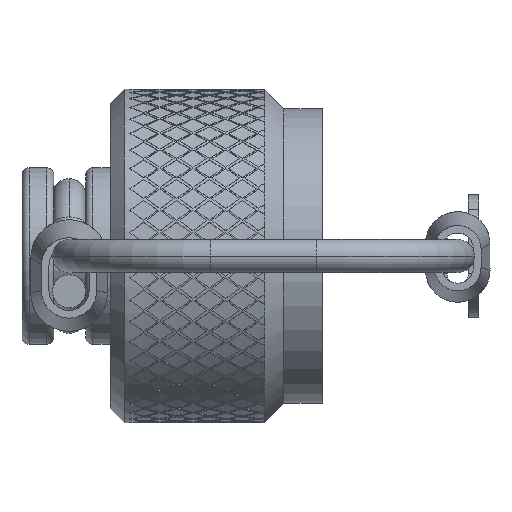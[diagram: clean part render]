
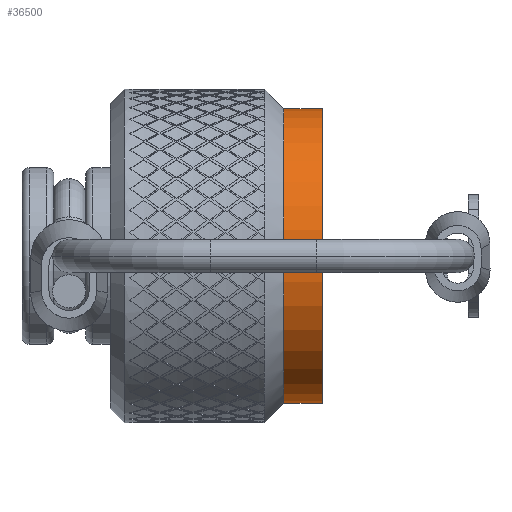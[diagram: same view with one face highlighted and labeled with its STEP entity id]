
A CAD part, front view. The second image highlights one B-rep face of the part: STEP entity #36500.
In plain terms, the highlighted cylindrical face has radius 10.592 mm (diameter 21.184 mm), a partial arc.
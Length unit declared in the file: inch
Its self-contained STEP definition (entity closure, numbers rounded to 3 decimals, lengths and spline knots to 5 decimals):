
#5377 = CARTESIAN_POINT ( 'NONE',  ( 0.7405, 0., -0.417 ) ) ;
#6701 = VERTEX_POINT ( 'NONE', #43143 ) ;
#8765 = VECTOR ( 'NONE', #32435, 39.37008 ) ;
#9992 = CARTESIAN_POINT ( 'NONE',  ( 0.7405, 0., 0. ) ) ;
#12717 = LINE ( 'NONE', #62083, #8765 ) ;
#14408 = EDGE_CURVE ( 'NONE', #26275, #56679, #12717, .T. ) ;
#18387 = EDGE_CURVE ( 'NONE', #6701, #18921, #25304, .T. ) ;
#18587 = EDGE_LOOP ( 'NONE', ( #45790, #18986, #49780, #60704 ) ) ;
#18921 = VERTEX_POINT ( 'NONE', #30626 ) ;
#18986 = ORIENTED_EDGE ( 'NONE', *, *, #45142, .T. ) ;
#19926 = DIRECTION ( 'NONE',  ( 1., 0., 0. ) ) ;
#20306 = DIRECTION ( 'NONE',  ( 0., 0., -1. ) ) ;
#23801 = VECTOR ( 'NONE', #40801, 39.37008 ) ;
#25304 = LINE ( 'NONE', #55619, #23801 ) ;
#26275 = VERTEX_POINT ( 'NONE', #5377 ) ;
#27040 = CARTESIAN_POINT ( 'NONE',  ( 0.85, 0., -0.417 ) ) ;
#29406 = AXIS2_PLACEMENT_3D ( 'NONE', #34146, #33211, #33826 ) ;
#30626 = CARTESIAN_POINT ( 'NONE',  ( 0.85, 0., 0.417 ) ) ;
#32435 = DIRECTION ( 'NONE',  ( 1., 0., 0. ) ) ;
#33211 = DIRECTION ( 'NONE',  ( 1., 0., 0. ) ) ;
#33826 = DIRECTION ( 'NONE',  ( 0., 0., -1. ) ) ;
#34146 = CARTESIAN_POINT ( 'NONE',  ( 0.85, 0., 0. ) ) ;
#36500 = ADVANCED_FACE ( 'NONE', ( #62894 ), #44491, .T. ) ;
#39016 = CARTESIAN_POINT ( 'NONE',  ( 0., 0., 0. ) ) ;
#39182 = AXIS2_PLACEMENT_3D ( 'NONE', #39016, #19926, #39641 ) ;
#39641 = DIRECTION ( 'NONE',  ( 0., 0., -1. ) ) ;
#40731 = AXIS2_PLACEMENT_3D ( 'NONE', #9992, #59994, #20306 ) ;
#40801 = DIRECTION ( 'NONE',  ( 1., 0., 0. ) ) ;
#43143 = CARTESIAN_POINT ( 'NONE',  ( 0.7405, 0., 0.417 ) ) ;
#44491 = CYLINDRICAL_SURFACE ( 'NONE', #39182, 0.417 ) ;
#45142 = EDGE_CURVE ( 'NONE', #6701, #26275, #47967, .T. ) ;
#45790 = ORIENTED_EDGE ( 'NONE', *, *, #18387, .F. ) ;
#47967 = CIRCLE ( 'NONE', #40731, 0.417 ) ;
#48004 = CIRCLE ( 'NONE', #29406, 0.417 ) ;
#49780 = ORIENTED_EDGE ( 'NONE', *, *, #14408, .T. ) ;
#54827 = EDGE_CURVE ( 'NONE', #18921, #56679, #48004, .T. ) ;
#55619 = CARTESIAN_POINT ( 'NONE',  ( 0., 0., 0.417 ) ) ;
#56679 = VERTEX_POINT ( 'NONE', #27040 ) ;
#59994 = DIRECTION ( 'NONE',  ( 1., 0., 0. ) ) ;
#60704 = ORIENTED_EDGE ( 'NONE', *, *, #54827, .F. ) ;
#62083 = CARTESIAN_POINT ( 'NONE',  ( 0., 0., -0.417 ) ) ;
#62894 = FACE_OUTER_BOUND ( 'NONE', #18587, .T. ) ;
